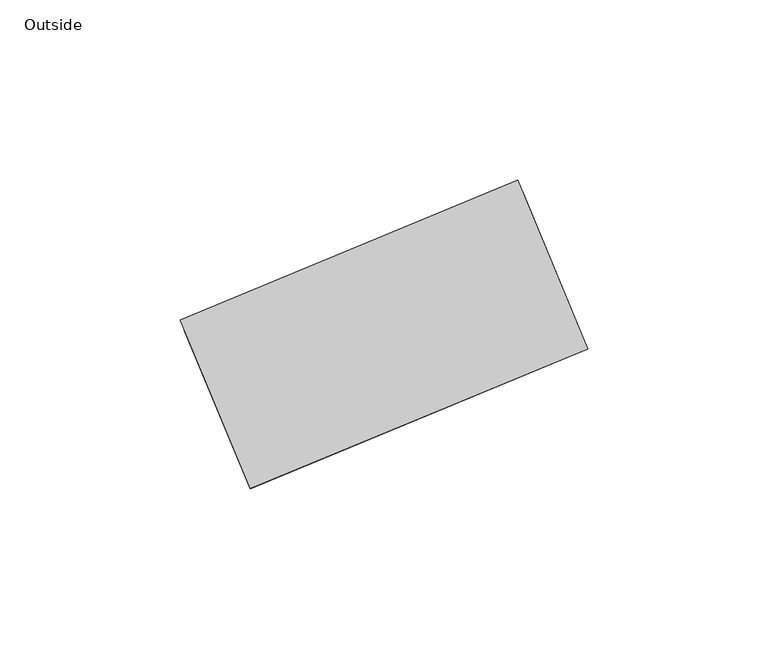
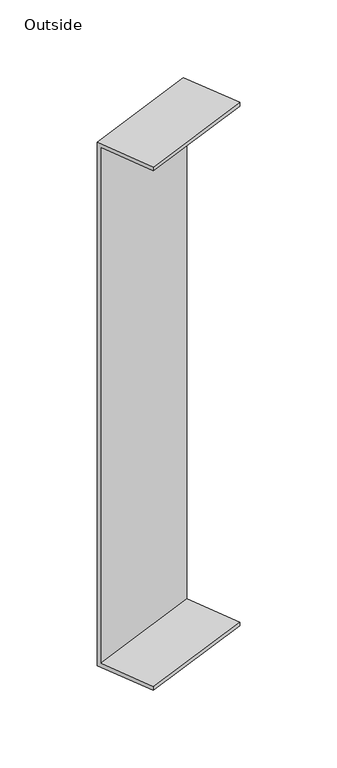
"""IFC4 building model written with IfcOpenShell, lengths in millimetres: cable carrier fitting geometry, Bend-Vertical-Cablofil-Wire_Mesh_Cable_Tray-Cablobend : Outside."""

from ifc_helpers import new_model, si_unit, frame, origin, place, context, project, spatial, polyline, outline, extrude, source, transform, mapped, element, save


def outside_c7e362af(model_context):
    return source(origin(), model_context, "Body", "SweptSolid", [
        extrude(outline(polyline([(-50.8000001, 0.0), (0.0, 0.0), (0.0, -457.2), (-50.8000001, -457.2), (-50.8000001, -454.025), (-3.175, -454.025), (-3.175, -3.175), (-50.8000001, -3.175), (-50.8000001, 0.0)])), frame((-65.5065483, 25.4, 228.6), z_axis=(0.9238795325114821, 0.3826834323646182, 0.0), x_axis=(-0.3826834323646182, 0.9238795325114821, 0.0)), (0.0, 0.0, 1.0), 101.6),
    ])


if __name__ == "__main__":
    model = new_model("IFC4")
    model_context = context("Model", 3, world=origin())
    ifc_project = project(units=[si_unit("LENGTHUNIT", "METRE", prefix="MILLI")], contexts=[model_context])
    site = spatial("IfcSite", under=ifc_project)
    building = spatial("IfcBuilding", under=site)
    placement = place(None, origin())
    outside_shape = outside_c7e362af(model_context)
    element("IfcCableCarrierFitting", 1, ObjectType="Bend-Vertical-Cablofil-Wire_Mesh_Cable_Tray-Cablobend : Outside", at=placement, inside=building, context=model_context, shape_type="MappedRepresentation", body=[
        mapped(outside_shape, transform((0.0, 0.0, 0.0), x_axis=(1.0, 0.0, 0.0), y_axis=(0.0, 1.0, 0.0), z_axis=(0.0, 0.0, 1.0))),
    ])
    save(model, "model.ifc")
